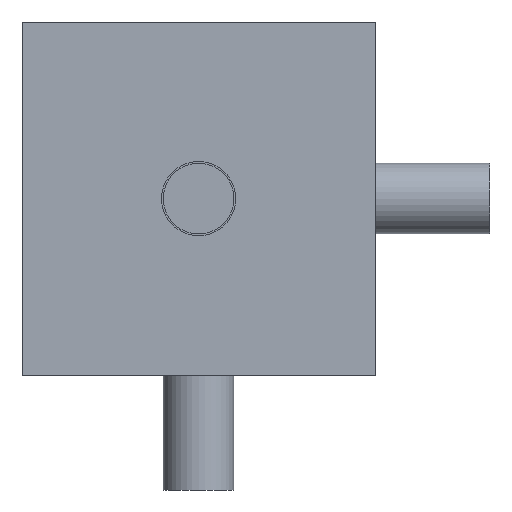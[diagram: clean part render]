
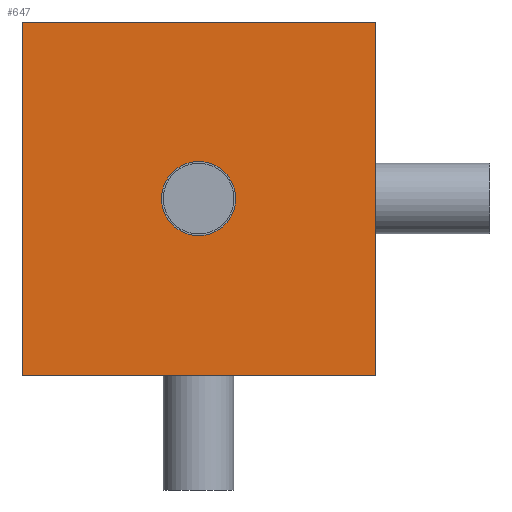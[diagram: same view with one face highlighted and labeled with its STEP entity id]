
A CAD part, left-side view. The second image highlights one B-rep face of the part: STEP entity #647.
In plain terms, the highlighted planar face has unit normal (-1, 0, 0).
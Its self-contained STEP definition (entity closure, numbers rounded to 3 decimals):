
#312=CARTESIAN_POINT('',(-10.0,-2.1,0.));
#313=VERTEX_POINT('',#312);
#314=CARTESIAN_POINT('',(-10.,0.,0.));
#315=DIRECTION('',(1.0,0.0,0.0));
#316=DIRECTION('',(0.0,1.0,0.0));
#317=AXIS2_PLACEMENT_3D('',#314,#315,#316);
#318=CIRCLE('',#317,2.1);
#319=EDGE_CURVE('',#313,#313,#318,.T.);
#556=CARTESIAN_POINT('',(-10.,10.,-10.));
#557=VERTEX_POINT('',#556);
#564=CARTESIAN_POINT('',(-10.,10.,10.));
#565=VERTEX_POINT('',#564);
#566=CARTESIAN_POINT('',(-10.,10.,-10.));
#567=DIRECTION('',(0.0,0.0,1.0));
#568=VECTOR('',#567,20.);
#569=LINE('',#566,#568);
#570=EDGE_CURVE('',#557,#565,#569,.T.);
#614=CARTESIAN_POINT('',(-10.,-10.,-10.));
#615=DIRECTION('',(-1.0,0.0,0.0));
#616=DIRECTION('',(0.0,0.0,1.0));
#617=AXIS2_PLACEMENT_3D('',#614,#615,#616);
#618=PLANE('',#617);
#619=CARTESIAN_POINT('',(-10.,-10.,10.));
#620=VERTEX_POINT('',#619);
#621=CARTESIAN_POINT('',(-10.,-10.,10.));
#622=DIRECTION('',(0.0,1.0,0.0));
#623=VECTOR('',#622,20.);
#624=LINE('',#621,#623);
#625=EDGE_CURVE('',#620,#565,#624,.T.);
#626=ORIENTED_EDGE('',*,*,#625,.T.);
#627=ORIENTED_EDGE('',*,*,#570,.F.);
#628=CARTESIAN_POINT('',(-10.,-10.,-10.));
#629=VERTEX_POINT('',#628);
#630=CARTESIAN_POINT('',(-10.,10.,-10.));
#631=DIRECTION('',(0.0,-1.0,0.0));
#632=VECTOR('',#631,20.);
#633=LINE('',#630,#632);
#634=EDGE_CURVE('',#557,#629,#633,.T.);
#635=ORIENTED_EDGE('',*,*,#634,.T.);
#636=CARTESIAN_POINT('',(-10.,-10.,-10.));
#637=DIRECTION('',(0.0,0.0,1.0));
#638=VECTOR('',#637,20.);
#639=LINE('',#636,#638);
#640=EDGE_CURVE('',#629,#620,#639,.T.);
#641=ORIENTED_EDGE('',*,*,#640,.T.);
#642=EDGE_LOOP('',(#626,#627,#635,#641));
#643=FACE_OUTER_BOUND('',#642,.T.);
#644=ORIENTED_EDGE('',*,*,#319,.T.);
#645=EDGE_LOOP('',(#644));
#646=FACE_BOUND('',#645,.T.);
#647=ADVANCED_FACE('',(#643,#646),#618,.T.);
